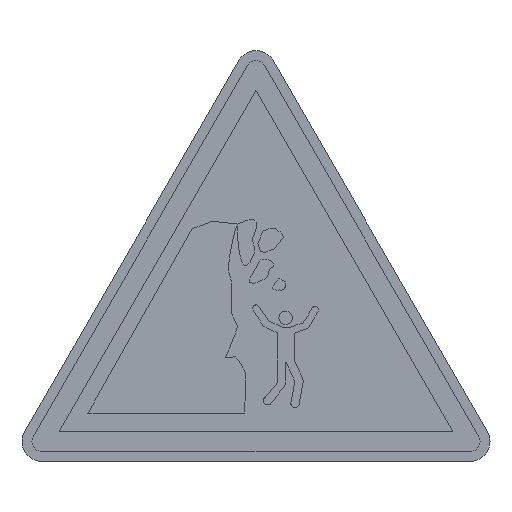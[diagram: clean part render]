
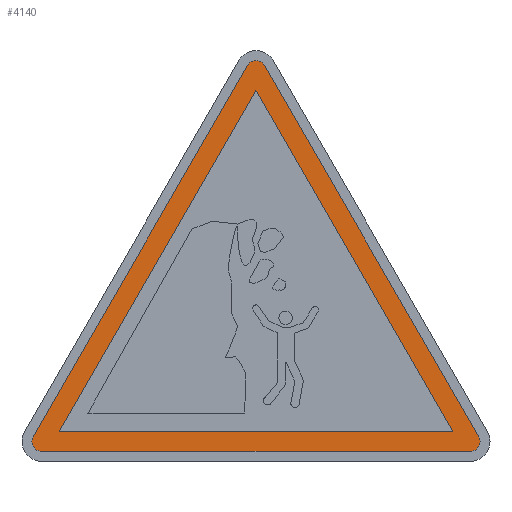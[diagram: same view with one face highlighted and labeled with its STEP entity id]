
A CAD part, top view. The second image highlights one B-rep face of the part: STEP entity #4140.
In plain terms, the highlighted planar face has unit normal (0, 0, 1).
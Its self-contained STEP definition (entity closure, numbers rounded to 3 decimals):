
#312 = CARTESIAN_POINT ( 'NONE',  ( -21.536, 1., 0.22 ) ) ;
#395 = PLANE ( 'NONE',  #4493 ) ;
#428 = CARTESIAN_POINT ( 'NONE',  ( 19.804, 3., 0.22 ) ) ;
#612 = CARTESIAN_POINT ( 'NONE',  ( 22.402, 2.5, 0.22 ) ) ;
#637 = CARTESIAN_POINT ( 'NONE',  ( 21.536, 1., 0.22 ) ) ;
#882 = LINE ( 'NONE', #3127, #2479 ) ;
#996 = VERTEX_POINT ( 'NONE', #5765 ) ;
#1032 = VERTEX_POINT ( 'NONE', #5924 ) ;
#1094 = DIRECTION ( 'NONE',  ( 1., 0., 0. ) ) ;
#1106 = ORIENTED_EDGE ( 'NONE', *, *, #2624, .F. ) ;
#1112 = CARTESIAN_POINT ( 'NONE',  ( 0., 39.301, 0.22 ) ) ;
#1210 = LINE ( 'NONE', #5748, #5104 ) ;
#1534 = DIRECTION ( 'NONE',  ( -0.5, 0.866, 0. ) ) ;
#1569 = FACE_OUTER_BOUND ( 'NONE', #4926, .T. ) ;
#1794 = VECTOR ( 'NONE', #1534, 1000. ) ;
#1826 = DIRECTION ( 'NONE',  ( 0., 0., 1. ) ) ;
#1845 = DIRECTION ( 'NONE',  ( 1., 0., 0. ) ) ;
#1882 = EDGE_LOOP ( 'NONE', ( #6353, #1106, #6931 ) ) ;
#2135 = DIRECTION ( 'NONE',  ( 0., 0., 1. ) ) ;
#2148 = CARTESIAN_POINT ( 'NONE',  ( -22.402, 2.5, 0.22 ) ) ;
#2205 = VERTEX_POINT ( 'NONE', #5237 ) ;
#2356 = VECTOR ( 'NONE', #5723, 1000. ) ;
#2477 = CIRCLE ( 'NONE', #7081, 1. ) ;
#2479 = VECTOR ( 'NONE', #4290, 1000. ) ;
#2617 = CARTESIAN_POINT ( 'NONE',  ( -19.804, 3., 0.22 ) ) ;
#2624 = EDGE_CURVE ( 'NONE', #7175, #6197, #882, .T. ) ;
#2654 = CARTESIAN_POINT ( 'NONE',  ( 0.866, 39.801, 0.22 ) ) ;
#2710 = VERTEX_POINT ( 'NONE', #637 ) ;
#2808 = VERTEX_POINT ( 'NONE', #2654 ) ;
#2951 = ORIENTED_EDGE ( 'NONE', *, *, #5004, .T. ) ;
#3127 = CARTESIAN_POINT ( 'NONE',  ( 0., 37.301, 0.22 ) ) ;
#3201 = EDGE_CURVE ( 'NONE', #1032, #2710, #5292, .T. ) ;
#3349 = DIRECTION ( 'NONE',  ( 1., 0., 0. ) ) ;
#3583 = VERTEX_POINT ( 'NONE', #7132 ) ;
#3693 = EDGE_CURVE ( 'NONE', #6749, #1032, #2477, .T. ) ;
#3806 = FACE_BOUND ( 'NONE', #1882, .T. ) ;
#3996 = AXIS2_PLACEMENT_3D ( 'NONE', #4618, #1826, #6320 ) ;
#4140 = ADVANCED_FACE ( 'NONE', ( #1569, #3806 ), #395, .T. ) ;
#4160 = EDGE_CURVE ( 'NONE', #2205, #2808, #5760, .T. ) ;
#4243 = EDGE_CURVE ( 'NONE', #2710, #2205, #4244, .T. ) ;
#4244 = CIRCLE ( 'NONE', #3996, 1. ) ;
#4290 = DIRECTION ( 'NONE',  ( -0.5, -0.866, 0. ) ) ;
#4382 = AXIS2_PLACEMENT_3D ( 'NONE', #4968, #2135, #1094 ) ;
#4493 = AXIS2_PLACEMENT_3D ( 'NONE', #1112, #6594, #3349 ) ;
#4500 = DIRECTION ( 'NONE',  ( -0.5, -0.866, 0. ) ) ;
#4618 = CARTESIAN_POINT ( 'NONE',  ( 21.536, 2., 0.22 ) ) ;
#4635 = CARTESIAN_POINT ( 'NONE',  ( -21.536, 2., 0.22 ) ) ;
#4926 = EDGE_LOOP ( 'NONE', ( #2951, #6290, #5884, #6081, #6039, #5413 ) ) ;
#4968 = CARTESIAN_POINT ( 'NONE',  ( 0., 39.301, 0.22 ) ) ;
#5004 = EDGE_CURVE ( 'NONE', #2808, #3583, #6735, .T. ) ;
#5104 = VECTOR ( 'NONE', #4500, 1000. ) ;
#5237 = CARTESIAN_POINT ( 'NONE',  ( 22.402, 2.5, 0.22 ) ) ;
#5292 = LINE ( 'NONE', #312, #6711 ) ;
#5370 = DIRECTION ( 'NONE',  ( 1., 0., 0. ) ) ;
#5413 = ORIENTED_EDGE ( 'NONE', *, *, #4160, .T. ) ;
#5479 = LINE ( 'NONE', #428, #1794 ) ;
#5665 = CARTESIAN_POINT ( 'NONE',  ( 0., 37.301, 0.22 ) ) ;
#5723 = DIRECTION ( 'NONE',  ( -0.5, 0.866, 0. ) ) ;
#5748 = CARTESIAN_POINT ( 'NONE',  ( -0.866, 39.801, 0.22 ) ) ;
#5760 = LINE ( 'NONE', #612, #2356 ) ;
#5765 = CARTESIAN_POINT ( 'NONE',  ( 19.804, 3., 0.22 ) ) ;
#5884 = ORIENTED_EDGE ( 'NONE', *, *, #3693, .T. ) ;
#5924 = CARTESIAN_POINT ( 'NONE',  ( -21.536, 1., 0.22 ) ) ;
#6000 = CARTESIAN_POINT ( 'NONE',  ( -19.804, 3., 0.22 ) ) ;
#6039 = ORIENTED_EDGE ( 'NONE', *, *, #4243, .T. ) ;
#6081 = ORIENTED_EDGE ( 'NONE', *, *, #3201, .T. ) ;
#6124 = DIRECTION ( 'NONE',  ( 1., 0., 0. ) ) ;
#6197 = VERTEX_POINT ( 'NONE', #6000 ) ;
#6290 = ORIENTED_EDGE ( 'NONE', *, *, #7000, .T. ) ;
#6320 = DIRECTION ( 'NONE',  ( 1., 0., 0. ) ) ;
#6353 = ORIENTED_EDGE ( 'NONE', *, *, #6933, .F. ) ;
#6404 = VECTOR ( 'NONE', #6124, 1000. ) ;
#6447 = EDGE_CURVE ( 'NONE', #996, #7175, #5479, .T. ) ;
#6594 = DIRECTION ( 'NONE',  ( 0., 0., 1. ) ) ;
#6654 = LINE ( 'NONE', #2617, #6404 ) ;
#6711 = VECTOR ( 'NONE', #5370, 1000. ) ;
#6735 = CIRCLE ( 'NONE', #4382, 1. ) ;
#6749 = VERTEX_POINT ( 'NONE', #2148 ) ;
#6891 = DIRECTION ( 'NONE',  ( 0., 0., 1. ) ) ;
#6931 = ORIENTED_EDGE ( 'NONE', *, *, #6447, .F. ) ;
#6933 = EDGE_CURVE ( 'NONE', #6197, #996, #6654, .T. ) ;
#7000 = EDGE_CURVE ( 'NONE', #3583, #6749, #1210, .T. ) ;
#7081 = AXIS2_PLACEMENT_3D ( 'NONE', #4635, #6891, #1845 ) ;
#7132 = CARTESIAN_POINT ( 'NONE',  ( -0.866, 39.801, 0.22 ) ) ;
#7175 = VERTEX_POINT ( 'NONE', #5665 ) ;
